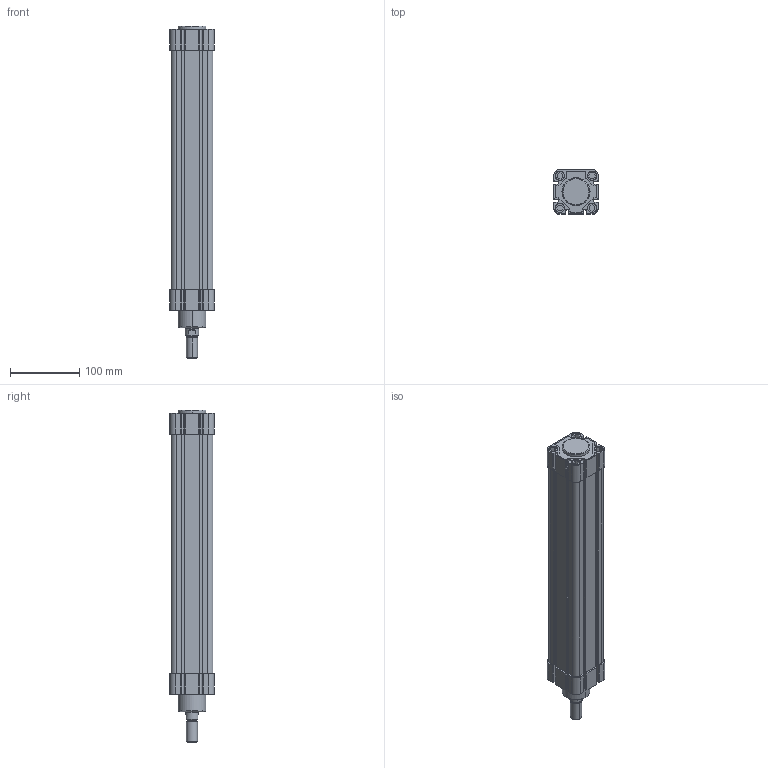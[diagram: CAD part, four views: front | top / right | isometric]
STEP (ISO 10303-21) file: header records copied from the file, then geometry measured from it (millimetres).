
FILE_DESCRIPTION((''),'2;1');
FILE_NAME('N11M20500300.stp','2010-01-06T15:19:27',('B. Petkovic 2010'),('AZ PNEUMATICA S.r.l.'),'Mechanical Desktop 2006','Mechanical Desktop 2006','Via Marco Biagi 6, I-20020 Misinto(MI) Italy, azpneu@tin.it');
FILE_SCHEMA(('CONFIG_CONTROL_DESIGN'));
Length unit declared in the file: millimetre
Products named in the file (2): N11M20400300; CILINDAR
Assembly tree (1 placements, depth 2):
  N11M20400300
    CILINDAR
Bounding box: 64 x 64 x 480 mm (x, y, z)
Volume: 1422715.3 mm3; surface area: 160533.6 mm2
Topology: 1 solids, 1 shells, 470 faces, 1238 edges, 813 vertices
Faces by surface type: plane 266, cylinder 188, torus 8, cone 4, bspline 4
Entity records: 14940 total; most frequent: CARTESIAN_POINT 2799, DIRECTION 2603, ORIENTED_EDGE 2476, EDGE_CURVE 1238, AXIS2_PLACEMENT_3D 901, VERTEX_POINT 813, VECTOR 801, LINE 801
